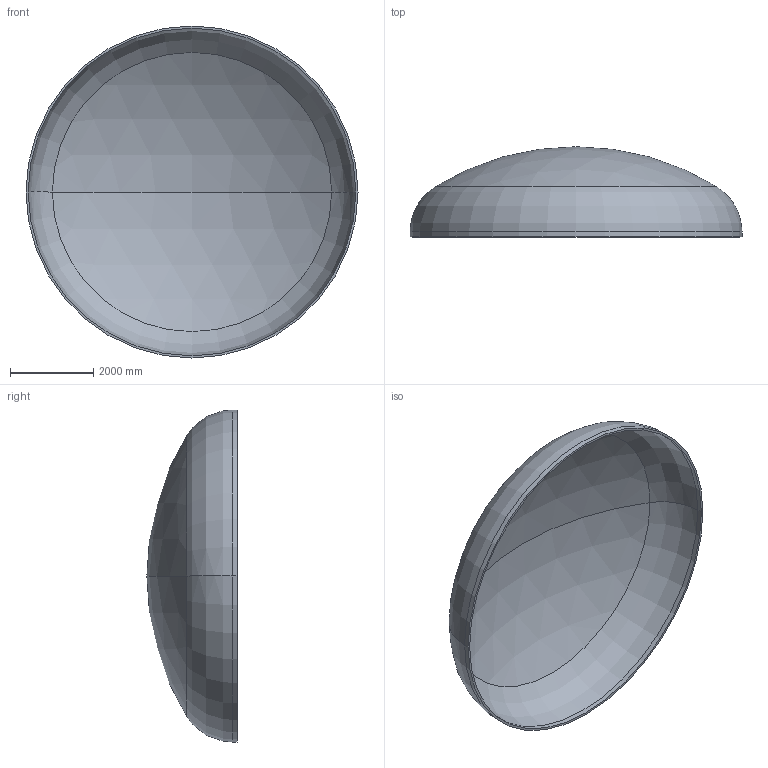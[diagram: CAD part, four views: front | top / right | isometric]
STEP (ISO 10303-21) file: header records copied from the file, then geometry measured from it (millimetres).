
FILE_DESCRIPTION (( 'STEP AP203' ), '1' );
FILE_NAME ('DIN 28013 Korbbogenform_-_Boden DIN 28013 - 8000 x 120 - I - s=52.step', '2016-07-04T11:02:29', ( '' ), ( '' ), 'SwSTEP 2.0', 'SolidWorks 2013', '' );
FILE_SCHEMA (( 'CONFIG_CONTROL_DESIGN' ));
Length unit declared in the file: millimetre
Products named in the file (1): DIN 28013 Korbbogenform_-_Boden DIN 28013 - 8000 x 120 - I - s=52
Bounding box: 8000 x 2174.12 x 8000 mm (x, y, z)
Volume: 3743838269.5 mm3; surface area: 145297793.8 mm2
Topology: 1 solids, 1 shells, 13 faces, 24 edges, 14 vertices
Faces by surface type: torus 4, cylinder 4, sphere 4, plane 1
Entity records: 407 total; most frequent: DIRECTION 72, CARTESIAN_POINT 52, ORIENTED_EDGE 48, AXIS2_PLACEMENT_3D 34, EDGE_CURVE 24, CIRCLE 20, VERTEX_POINT 14, EDGE_LOOP 14
